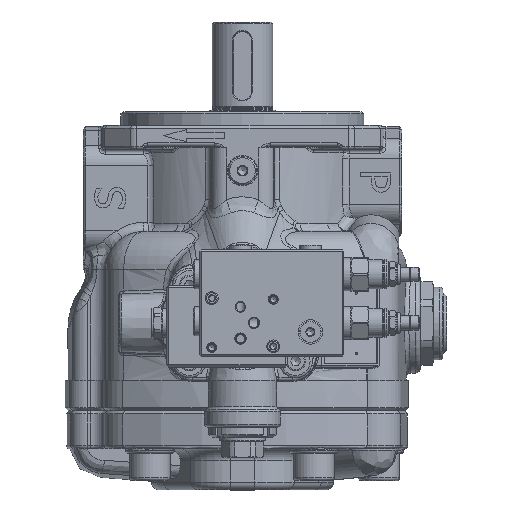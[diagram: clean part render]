
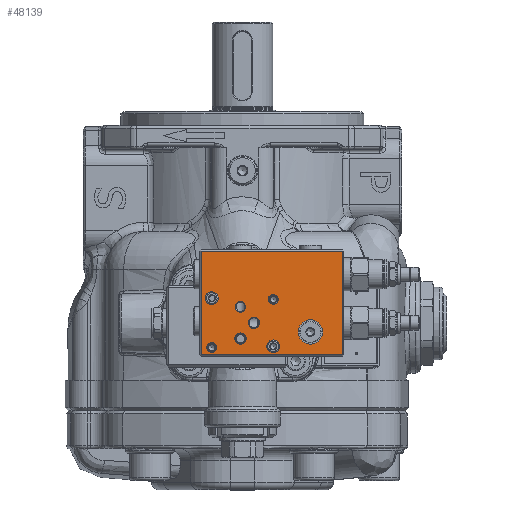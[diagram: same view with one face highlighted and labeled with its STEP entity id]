
A CAD part, top view. The second image highlights one B-rep face of the part: STEP entity #48139.
In plain terms, the highlighted planar face has unit normal (0, 0, 1).
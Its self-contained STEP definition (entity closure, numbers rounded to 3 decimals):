
#742=FACE_BOUND('',#9055,.T.);
#743=FACE_BOUND('',#9056,.T.);
#744=FACE_BOUND('',#9057,.T.);
#745=FACE_BOUND('',#9058,.T.);
#746=FACE_BOUND('',#9059,.T.);
#747=FACE_BOUND('',#9060,.T.);
#748=FACE_BOUND('',#9061,.T.);
#749=FACE_BOUND('',#9062,.T.);
#2103=PLANE('',#52693);
#3481=B_SPLINE_CURVE_WITH_KNOTS('',3,(#99396,#99397,#99398,#99399,#99400,
#99401,#99402,#99403,#99404,#99405,#99406,#99407,#99408,#99409,#99410,#99411,
#99412),.UNSPECIFIED.,.T.,.F.,(4,1,1,1,1,1,1,1,1,1,1,1,1,1,4),(-2.154,
-2.077,-2.,-1.923,-1.846,
-1.538,-1.231,-1.128,-0.923,
-0.615,-0.308,-0.231,-0.154,
-0.077,0.),.UNSPECIFIED.);
#6156=FACE_OUTER_BOUND('',#9054,.T.);
#9054=EDGE_LOOP('',(#40954,#40955,#40956,#40957));
#9055=EDGE_LOOP('',(#40958));
#9056=EDGE_LOOP('',(#40959));
#9057=EDGE_LOOP('',(#40960));
#9058=EDGE_LOOP('',(#40961));
#9059=EDGE_LOOP('',(#40962));
#9060=EDGE_LOOP('',(#40963,#40964));
#9061=EDGE_LOOP('',(#40965));
#9062=EDGE_LOOP('',(#40966));
#9471=CIRCLE('',#48628,4.25);
#11487=CIRCLE('',#52227,4.25);
#11521=CIRCLE('',#52287,8.);
#11522=CIRCLE('',#52288,8.);
#11611=CIRCLE('',#52655,3.25);
#11616=CIRCLE('',#52662,3.75);
#11617=CIRCLE('',#52664,3.25);
#11620=CIRCLE('',#52671,3.75);
#14547=LINE('',#99274,#17292);
#14552=LINE('',#99282,#17297);
#14557=LINE('',#99290,#17302);
#14560=LINE('',#99294,#17305);
#17292=VECTOR('',#64242,10.);
#17297=VECTOR('',#64251,10.);
#17302=VECTOR('',#64260,10.);
#17305=VECTOR('',#64265,10.);
#17766=VERTEX_POINT('',#66766);
#20847=VERTEX_POINT('',#97139);
#20902=VERTEX_POINT('',#97546);
#20903=VERTEX_POINT('',#97547);
#21374=VERTEX_POINT('',#99270);
#21375=VERTEX_POINT('',#99272);
#21376=VERTEX_POINT('',#99280);
#21377=VERTEX_POINT('',#99287);
#21379=VERTEX_POINT('',#99391);
#21380=VERTEX_POINT('',#99414);
#21385=VERTEX_POINT('',#99428);
#21386=VERTEX_POINT('',#99432);
#21391=VERTEX_POINT('',#99446);
#22190=EDGE_CURVE('',#17766,#17766,#9471,.T.);
#27181=EDGE_CURVE('',#20847,#20847,#11487,.T.);
#27256=EDGE_CURVE('',#20902,#20903,#11521,.T.);
#27257=EDGE_CURVE('',#20903,#20902,#11522,.T.);
#27966=EDGE_CURVE('',#21375,#21374,#14547,.T.);
#27971=EDGE_CURVE('',#21376,#21375,#14552,.T.);
#27976=EDGE_CURVE('',#21374,#21377,#14557,.T.);
#27979=EDGE_CURVE('',#21377,#21376,#14560,.T.);
#27983=EDGE_CURVE('',#21379,#21379,#3481,.T.);
#27984=EDGE_CURVE('',#21380,#21380,#11611,.T.);
#27991=EDGE_CURVE('',#21385,#21385,#11616,.T.);
#27993=EDGE_CURVE('',#21386,#21386,#11617,.T.);
#28000=EDGE_CURVE('',#21391,#21391,#11620,.T.);
#40954=ORIENTED_EDGE('',*,*,#27979,.F.);
#40955=ORIENTED_EDGE('',*,*,#27976,.F.);
#40956=ORIENTED_EDGE('',*,*,#27966,.F.);
#40957=ORIENTED_EDGE('',*,*,#27971,.F.);
#40958=ORIENTED_EDGE('',*,*,#27181,.F.);
#40959=ORIENTED_EDGE('',*,*,#22190,.F.);
#40960=ORIENTED_EDGE('',*,*,#28000,.F.);
#40961=ORIENTED_EDGE('',*,*,#27991,.F.);
#40962=ORIENTED_EDGE('',*,*,#27983,.F.);
#40963=ORIENTED_EDGE('',*,*,#27256,.T.);
#40964=ORIENTED_EDGE('',*,*,#27257,.T.);
#40965=ORIENTED_EDGE('',*,*,#27984,.F.);
#40966=ORIENTED_EDGE('',*,*,#27993,.F.);
#48139=ADVANCED_FACE('',(#6156,#742,#743,#744,#745,#746,#747,#748,#749),
#2103,.T.);
#48628=AXIS2_PLACEMENT_3D('',#66768,#53868,#53869);
#52227=AXIS2_PLACEMENT_3D('',#97141,#62796,#62797);
#52287=AXIS2_PLACEMENT_3D('',#97548,#62940,#62941);
#52288=AXIS2_PLACEMENT_3D('',#97549,#62942,#62943);
#52655=AXIS2_PLACEMENT_3D('',#99415,#64287,#64288);
#52662=AXIS2_PLACEMENT_3D('',#99429,#64303,#64304);
#52664=AXIS2_PLACEMENT_3D('',#99433,#64308,#64309);
#52671=AXIS2_PLACEMENT_3D('',#99447,#64324,#64325);
#52693=AXIS2_PLACEMENT_3D('',#99487,#64379,#64380);
#53868=DIRECTION('center_axis',(0.,0.,
1.));
#53869=DIRECTION('ref_axis',(1.,0.,0.));
#62796=DIRECTION('center_axis',(0.,0.,
1.));
#62797=DIRECTION('ref_axis',(1.,0.,0.));
#62940=DIRECTION('center_axis',(0.,0.,
-1.));
#62941=DIRECTION('ref_axis',(-1.,0.,0.));
#62942=DIRECTION('center_axis',(0.,0.,
-1.));
#62943=DIRECTION('ref_axis',(-1.,0.,0.));
#64242=DIRECTION('',(0.,1.,0.));
#64251=DIRECTION('',(-1.,0.,0.));
#64260=DIRECTION('',(1.,0.,0.));
#64265=DIRECTION('',(0.,-1.,0.));
#64287=DIRECTION('center_axis',(0.,0.,
1.));
#64288=DIRECTION('ref_axis',(1.,0.,0.));
#64303=DIRECTION('center_axis',(0.,0.,
1.));
#64304=DIRECTION('ref_axis',(1.,0.,0.));
#64308=DIRECTION('center_axis',(0.,0.,
1.));
#64309=DIRECTION('ref_axis',(1.,0.,0.));
#64324=DIRECTION('center_axis',(0.,0.,
1.));
#64325=DIRECTION('ref_axis',(1.,0.,0.));
#64379=DIRECTION('center_axis',(0.,0.,
1.));
#64380=DIRECTION('ref_axis',(-1.,0.,0.));
#66766=CARTESIAN_POINT('',(-20.939,-23.062,255.499));
#66768=CARTESIAN_POINT('Origin',(-16.689,-23.062,255.499));
#97139=CARTESIAN_POINT('',(19.561,-54.812,255.499));
#97141=CARTESIAN_POINT('Origin',(23.811,-54.812,255.499));
#97546=CARTESIAN_POINT('',(40.311,-45.312,255.499));
#97547=CARTESIAN_POINT('',(56.311,-45.312,255.499));
#97548=CARTESIAN_POINT('Origin',(48.311,-45.312,255.499));
#97549=CARTESIAN_POINT('Origin',(48.311,-45.312,255.499));
#99270=CARTESIAN_POINT('',(-23.689,7.688,255.499));
#99272=CARTESIAN_POINT('',(-23.689,-60.312,255.499));
#99274=CARTESIAN_POINT('',(-23.689,-8.812,255.499));
#99280=CARTESIAN_POINT('',(69.311,-60.312,255.499));
#99282=CARTESIAN_POINT('',(-0.939,-60.312,255.499));
#99287=CARTESIAN_POINT('',(69.311,7.688,255.499));
#99290=CARTESIAN_POINT('',(46.561,7.688,255.499));
#99294=CARTESIAN_POINT('',(69.311,-43.812,255.499));
#99391=CARTESIAN_POINT('',(2.311,-25.306,255.499));
#99396=CARTESIAN_POINT('Ctrl Pts',(2.311,-25.306,255.499));
#99397=CARTESIAN_POINT('Ctrl Pts',(2.14,-25.306,255.499));
#99398=CARTESIAN_POINT('Ctrl Pts',(1.768,-25.324,255.499));
#99399=CARTESIAN_POINT('Ctrl Pts',(0.934,-25.556,
255.499));
#99400=CARTESIAN_POINT('Ctrl Pts',(0.171,-26.049,
255.499));
#99401=CARTESIAN_POINT('Ctrl Pts',(-0.927,-27.207,
255.499));
#99402=CARTESIAN_POINT('Ctrl Pts',(-1.445,-29.673,255.499));
#99403=CARTESIAN_POINT('Ctrl Pts',(0.124,-31.795,
255.499));
#99404=CARTESIAN_POINT('Ctrl Pts',(2.117,-32.437,255.499));
#99405=CARTESIAN_POINT('Ctrl Pts',(4.258,-32.102,255.499));
#99406=CARTESIAN_POINT('Ctrl Pts',(6.076,-29.665,255.499));
#99407=CARTESIAN_POINT('Ctrl Pts',(5.549,-27.21,255.499));
#99408=CARTESIAN_POINT('Ctrl Pts',(4.452,-26.05,255.499));
#99409=CARTESIAN_POINT('Ctrl Pts',(3.687,-25.557,255.499));
#99410=CARTESIAN_POINT('Ctrl Pts',(2.853,-25.325,255.499));
#99411=CARTESIAN_POINT('Ctrl Pts',(2.482,-25.306,255.499));
#99412=CARTESIAN_POINT('Ctrl Pts',(2.311,-25.306,255.499));
#99414=CARTESIAN_POINT('',(-19.939,-55.562,255.499));
#99415=CARTESIAN_POINT('Origin',(-16.689,-55.562,255.499));
#99428=CARTESIAN_POINT('',(7.361,-39.312,255.499));
#99429=CARTESIAN_POINT('Origin',(11.111,-39.312,255.499));
#99432=CARTESIAN_POINT('',(20.561,-23.812,255.499));
#99433=CARTESIAN_POINT('Origin',(23.811,-23.812,255.499));
#99446=CARTESIAN_POINT('',(-1.439,-49.712,255.499));
#99447=CARTESIAN_POINT('Origin',(2.311,-49.712,255.499));
#99487=CARTESIAN_POINT('Origin',(22.811,-26.312,255.499));
